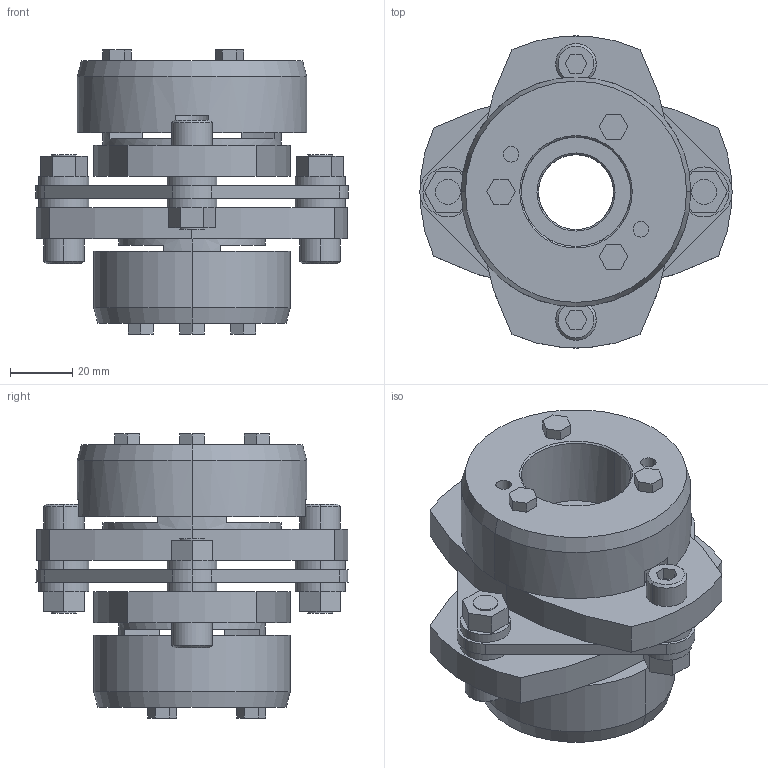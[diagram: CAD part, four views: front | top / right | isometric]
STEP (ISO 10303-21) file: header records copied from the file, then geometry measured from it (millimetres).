
FILE_DESCRIPTION((''),'2;1');
FILE_NAME('LCS-100T7-24×35.stp','2015-11-02T07:42:27',(''),(''),'AutoCAD STEP 2000i','AutoCAD 2000i',', , ');
FILE_SCHEMA(('CONFIG_CONTROL_DESIGN'));
Length unit declared in the file: millimetre
Products named in the file (9): LCS-100T7-25×35; 忣兜1; LC100T7-T035; LC100T7-T030; LC100T7-T025-1; LC100T7-T025; LC100T7-T022-1; LC100T7-T022; LCS100-ITA
Assembly tree (8 placements, depth 2):
  LCS-100T7-25×35
    忣兜1
    LC100T7-T035
    LC100T7-T030
    LC100T7-T025-1
    LC100T7-T025
    LC100T7-T022-1
    LC100T7-T022
    LCS100-ITA
Bounding box: 100 x 99.93 x 91 mm (x, y, z)
Volume: 265604.5 mm3; surface area: 64923.2 mm2
Topology: 1 solids, 1 shells, 236 faces, 580 edges, 380 vertices
Faces by surface type: plane 134, cylinder 82, cone 20
Entity records: 7231 total; most frequent: DIRECTION 1274, CARTESIAN_POINT 1205, ORIENTED_EDGE 1160, EDGE_CURVE 580, AXIS2_PLACEMENT_3D 449, VERTEX_POINT 380, VECTOR 376, LINE 376
